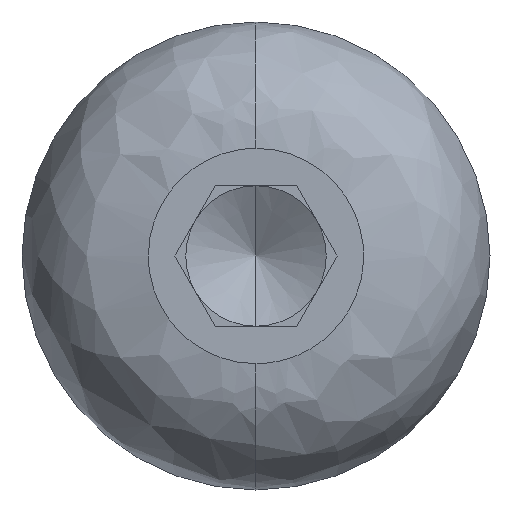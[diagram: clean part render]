
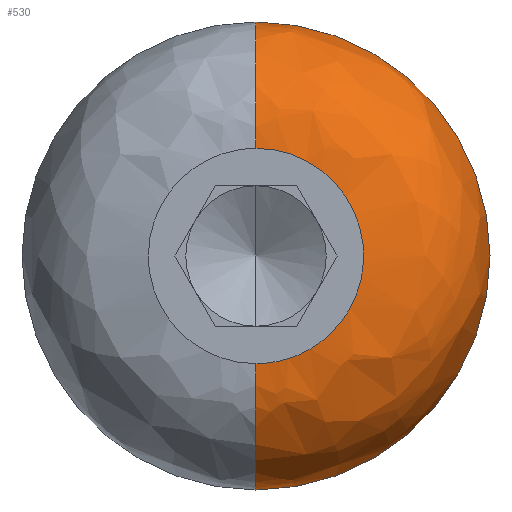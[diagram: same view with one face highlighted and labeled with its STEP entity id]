
A CAD part, left-side view. The second image highlights one B-rep face of the part: STEP entity #530.
In plain terms, the highlighted free-form (B-spline) face has degree [3, 3] with [4, 4] control points.
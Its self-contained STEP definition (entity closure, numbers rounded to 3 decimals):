
#7 = FACE_OUTER_BOUND ( 'NONE', #234, .T. ) ;
#8 = DIRECTION ( 'NONE',  ( 0., 0., 1. ) ) ;
#12 = DIRECTION ( 'NONE',  ( 0., 1., 0. ) ) ;
#14 = CARTESIAN_POINT ( 'NONE',  ( 2.7, 0., 2.3 ) ) ;
#30 = DIRECTION ( 'NONE',  ( 0., 0., 1. ) ) ;
#33 = DIRECTION ( 'NONE',  ( 1., 0., 0. ) ) ;
#34 = CARTESIAN_POINT ( 'NONE',  ( 2.7, 0., 0. ) ) ;
#38 = VERTEX_POINT ( 'NONE', #743 ) ;
#198 = ORIENTED_EDGE ( 'NONE', *, *, #699, .T. ) ;
#203 = DIRECTION ( 'NONE',  ( 0., 0., -1. ) ) ;
#215 = ORIENTED_EDGE ( 'NONE', *, *, #706, .T. ) ;
#222 = ORIENTED_EDGE ( 'NONE', *, *, #658, .F. ) ;
#225 = DIRECTION ( 'NONE',  ( 0., -1., 0. ) ) ;
#234 = EDGE_LOOP ( 'NONE', ( #215, #198, #222, #235 ) ) ;
#235 = ORIENTED_EDGE ( 'NONE', *, *, #661, .F. ) ;
#236 = CIRCLE ( 'NONE', #438, 2.7 ) ;
#293 = CARTESIAN_POINT ( 'NONE',  ( 0., 0., -2.3 ) ) ;
#300 = CARTESIAN_POINT ( 'NONE',  ( 0., -4.6, -2.3 ) ) ;
#333 = CARTESIAN_POINT ( 'NONE',  ( 2.7, 0., 5. ) ) ;
#338 = CARTESIAN_POINT ( 'NONE',  ( 2.7, -10., 5. ) ) ;
#340 = CARTESIAN_POINT ( 'NONE',  ( 2.7, -10., -5. ) ) ;
#343 = CARTESIAN_POINT ( 'NONE',  ( 2.7, 0., -5. ) ) ;
#346 = CARTESIAN_POINT ( 'NONE',  ( 1.118, 0., 5. ) ) ;
#348 = CARTESIAN_POINT ( 'NONE',  ( 1.118, -10., 5. ) ) ;
#358 = CARTESIAN_POINT ( 'NONE',  ( 1.118, -10., -5. ) ) ;
#360 = CARTESIAN_POINT ( 'NONE',  ( 1.118, 0., -5. ) ) ;
#362 = CARTESIAN_POINT ( 'NONE',  ( 0., 0., 3.882 ) ) ;
#364 = CARTESIAN_POINT ( 'NONE',  ( 0., -7.763, 3.882 ) ) ;
#365 = VERTEX_POINT ( 'NONE', #645 ) ;
#368 = CARTESIAN_POINT ( 'NONE',  ( 0., -7.763, -3.882 ) ) ;
#372 = CARTESIAN_POINT ( 'NONE',  ( 0., 0., -3.882 ) ) ;
#381 = CARTESIAN_POINT ( 'NONE',  ( 0., 0., 2.3 ) ) ;
#382 = CARTESIAN_POINT ( 'NONE',  ( 0., -4.6, 2.3 ) ) ;
#386 = CARTESIAN_POINT ( 'NONE',  ( 0., -4.6, -2.3 ) ) ;
#410 = VERTEX_POINT ( 'NONE', #601 ) ;
#413 = CARTESIAN_POINT ( 'NONE',  ( 0., 0., -2.3 ) ) ;
#421 = VERTEX_POINT ( 'NONE', #603 ) ;
#423 = AXIS2_PLACEMENT_3D ( 'NONE', #435, #225, #203 ) ;
#435 = CARTESIAN_POINT ( 'NONE',  ( 2.7, 0., -2.3 ) ) ;
#438 = AXIS2_PLACEMENT_3D ( 'NONE', #14, #12, #8 ) ;
#445 = AXIS2_PLACEMENT_3D ( 'NONE', #34, #33, #30 ) ;
#484 = CIRCLE ( 'NONE', #423, 2.7 ) ;
#511 = CARTESIAN_POINT ( 'NONE',  ( 0., 0., 2.3 ) ) ;
#530 = ADVANCED_FACE ( 'NONE', ( #7 ), #571, .T. ) ;
#571 =( BOUNDED_SURFACE ( )  B_SPLINE_SURFACE ( 3, 3, ( 
 ( #413, #386, #382, #381 ),
 ( #372, #368, #364, #362 ),
 ( #360, #358, #348, #346 ),
 ( #343, #340, #338, #333 ) ),
 .UNSPECIFIED., .F., .F., .F. ) 
 B_SPLINE_SURFACE_WITH_KNOTS ( ( 4, 4 ),
 ( 4, 4 ),
 ( 0., 1. ),
 ( 0., 1. ),
 .UNSPECIFIED. ) 
 GEOMETRIC_REPRESENTATION_ITEM ( )  RATIONAL_B_SPLINE_SURFACE ( (
 ( 1., 0.333, 0.333, 1.),
 ( 0.805, 0.268, 0.268, 0.805),
 ( 0.805, 0.268, 0.268, 0.805),
 ( 1., 0.333, 0.333, 1.) ) ) 
 REPRESENTATION_ITEM ( '' )  SURFACE ( )  );
#590 = CARTESIAN_POINT ( 'NONE',  ( 0., -4.6, 2.3 ) ) ;
#600 =( BOUNDED_CURVE ( )  B_SPLINE_CURVE ( 3, ( #511, #590, #300, #293 ),
 .UNSPECIFIED., .F., .F. ) 
 B_SPLINE_CURVE_WITH_KNOTS ( ( 4, 4 ),
 ( 0., 1. ),
 .UNSPECIFIED. ) 
 CURVE ( )  GEOMETRIC_REPRESENTATION_ITEM ( )  RATIONAL_B_SPLINE_CURVE ( ( 1., 0.333, 0.333, 1. ) ) 
 REPRESENTATION_ITEM ( '' )  );
#601 = CARTESIAN_POINT ( 'NONE',  ( 2.7, 0., -5. ) ) ;
#603 = CARTESIAN_POINT ( 'NONE',  ( 0., 0., 2.3 ) ) ;
#610 = CIRCLE ( 'NONE', #445, 5. ) ;
#645 = CARTESIAN_POINT ( 'NONE',  ( 2.7, 0., 5. ) ) ;
#658 = EDGE_CURVE ( 'NONE', #365, #410, #610, .T. ) ;
#661 = EDGE_CURVE ( 'NONE', #421, #365, #236, .T. ) ;
#699 = EDGE_CURVE ( 'NONE', #38, #410, #484, .T. ) ;
#706 = EDGE_CURVE ( 'NONE', #421, #38, #600, .T. ) ;
#743 = CARTESIAN_POINT ( 'NONE',  ( 0., 0., -2.3 ) ) ;
